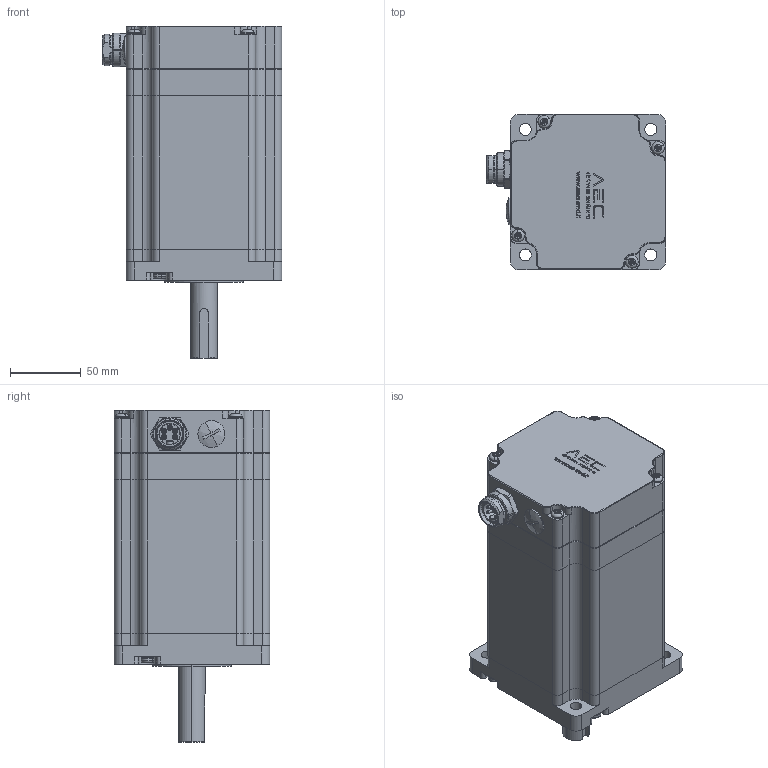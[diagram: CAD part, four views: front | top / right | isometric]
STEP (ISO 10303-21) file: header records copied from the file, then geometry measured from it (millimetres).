
FILE_DESCRIPTION (( 'STEP AP214' ), '1' );
FILE_NAME ('M110SH150-T-C.STEP', '2025-05-24T08:53:15', ( '' ), ( '' ), 'SwSTEP 2.0', 'SolidWorks 2019', '' );
FILE_SCHEMA (( 'AUTOMOTIVE_DESIGN' ));
Length unit declared in the file: millimetre
Products named in the file (1): M110SH150-T-C
Bounding box: 127 x 110 x 235 mm (x, y, z)
Volume: 803423.6 mm3; surface area: 282796.1 mm2
Topology: 45 solids, 45 shells, 1552 faces, 4006 edges, 2574 vertices
Faces by surface type: plane 595, cylinder 439, bspline 297, cone 131, torus 90
Entity records: 76631 total; most frequent: CARTESIAN_POINT 22835, ORIENTED_EDGE 7868, DIRECTION 6973, EDGE_CURVE 3934, AXIS2_PLACEMENT_3D 2584, VERTEX_POINT 2574, LINE 1805, VECTOR 1805
